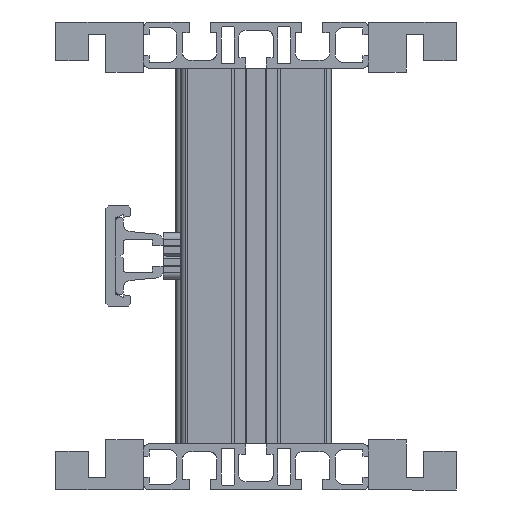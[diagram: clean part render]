
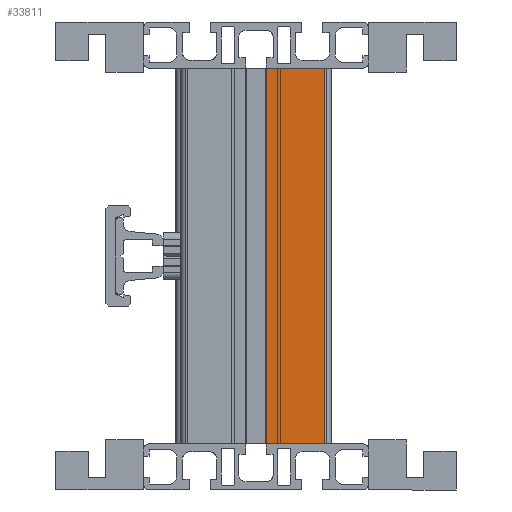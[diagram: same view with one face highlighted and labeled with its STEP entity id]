
A CAD part, left-side view. The second image highlights one B-rep face of the part: STEP entity #33811.
In plain terms, the highlighted planar face has unit normal (-1, 0, 0).
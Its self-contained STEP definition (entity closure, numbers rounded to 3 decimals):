
#917 = VERTEX_POINT ( 'NONE', #24448 ) ;
#4176 = VERTEX_POINT ( 'NONE', #21198 ) ;
#4191 = ORIENTED_EDGE ( 'NONE', *, *, #33747, .F. ) ;
#4973 = LINE ( 'NONE', #18553, #13048 ) ;
#5064 = FACE_OUTER_BOUND ( 'NONE', #21804, .T. ) ;
#8147 = CARTESIAN_POINT ( 'NONE',  ( -380., -72.5, -75. ) ) ;
#12303 = DIRECTION ( 'NONE',  ( 0., 0., 1. ) ) ;
#13048 = VECTOR ( 'NONE', #18674, 1000. ) ;
#13903 = EDGE_CURVE ( 'NONE', #4176, #17797, #33599, .T. ) ;
#14443 = DIRECTION ( 'NONE',  ( 1., 0., 0. ) ) ;
#15960 = VERTEX_POINT ( 'NONE', #33527 ) ;
#15975 = DIRECTION ( 'NONE',  ( 0., 1., 0. ) ) ;
#17141 = CARTESIAN_POINT ( 'NONE',  ( -380., -49.15, 75. ) ) ;
#17797 = VERTEX_POINT ( 'NONE', #17141 ) ;
#18553 = CARTESIAN_POINT ( 'NONE',  ( -380., -72.5, -75. ) ) ;
#18674 = DIRECTION ( 'NONE',  ( 0., 0., 1. ) ) ;
#19914 = ORIENTED_EDGE ( 'NONE', *, *, #27489, .T. ) ;
#21198 = CARTESIAN_POINT ( 'NONE',  ( -380., -72.5, 75. ) ) ;
#21484 = ORIENTED_EDGE ( 'NONE', *, *, #13903, .T. ) ;
#21736 = AXIS2_PLACEMENT_3D ( 'NONE', #29881, #14443, #24504 ) ;
#21804 = EDGE_LOOP ( 'NONE', ( #21484, #22378, #4191, #19914 ) ) ;
#22378 = ORIENTED_EDGE ( 'NONE', *, *, #28024, .F. ) ;
#22994 = LINE ( 'NONE', #8147, #33199 ) ;
#24448 = CARTESIAN_POINT ( 'NONE',  ( -380., -49.15, -75. ) ) ;
#24504 = DIRECTION ( 'NONE',  ( 0., 0., -1. ) ) ;
#24862 = PLANE ( 'NONE',  #21736 ) ;
#25853 = VECTOR ( 'NONE', #15975, 1000. ) ;
#26413 = CARTESIAN_POINT ( 'NONE',  ( -380., -72.5, 75. ) ) ;
#27489 = EDGE_CURVE ( 'NONE', #15960, #4176, #4973, .T. ) ;
#28024 = EDGE_CURVE ( 'NONE', #917, #17797, #28214, .T. ) ;
#28214 = LINE ( 'NONE', #33407, #33441 ) ;
#29881 = CARTESIAN_POINT ( 'NONE',  ( -380., -72.5, -75. ) ) ;
#32159 = DIRECTION ( 'NONE',  ( 0., 1., 0. ) ) ;
#33199 = VECTOR ( 'NONE', #32159, 1000. ) ;
#33407 = CARTESIAN_POINT ( 'NONE',  ( -380., -49.15, -75. ) ) ;
#33441 = VECTOR ( 'NONE', #12303, 1000. ) ;
#33527 = CARTESIAN_POINT ( 'NONE',  ( -380., -72.5, -75. ) ) ;
#33599 = LINE ( 'NONE', #26413, #25853 ) ;
#33747 = EDGE_CURVE ( 'NONE', #15960, #917, #22994, .T. ) ;
#33811 = ADVANCED_FACE ( 'NONE', ( #5064 ), #24862, .F. ) ;
